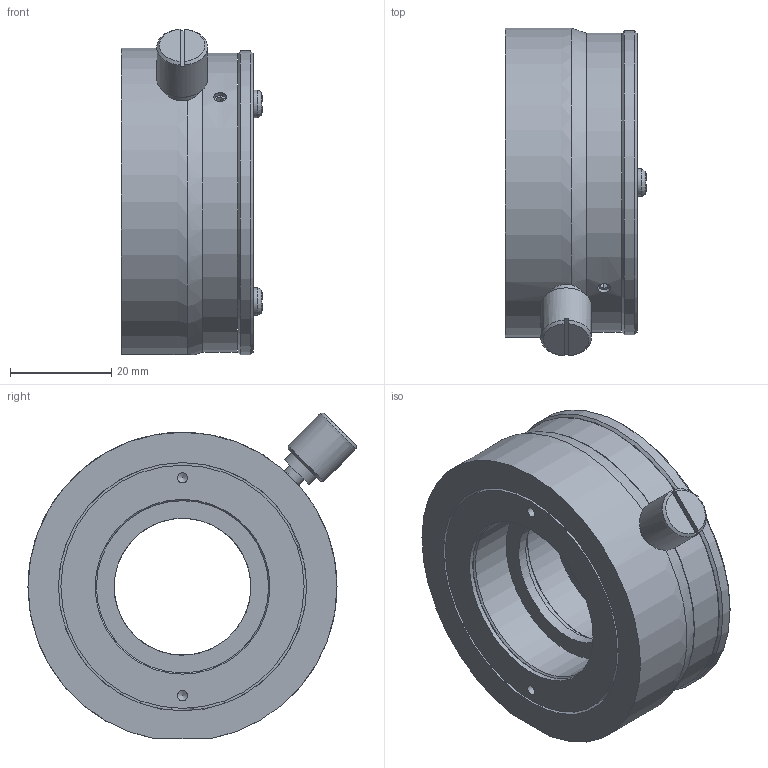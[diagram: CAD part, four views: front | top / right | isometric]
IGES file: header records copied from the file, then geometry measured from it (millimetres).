
Global section: file name: PH-30-ARS-UU; native system: Autodesk Inventor 2014; preprocessor: unknown; author: NAKATA; date: 20140809.094926; units: millimetre
Bounding box: 27.91 x 64.75 x 64.25 mm (x, y, z)
Volume: 5272 mm3; surface area: 21707.9 mm2
Topology: 1 solids, 1 shells, 113 faces, 497 edges, 453 vertices
Faces by surface type: revolution 45, plane 34, bspline 34
